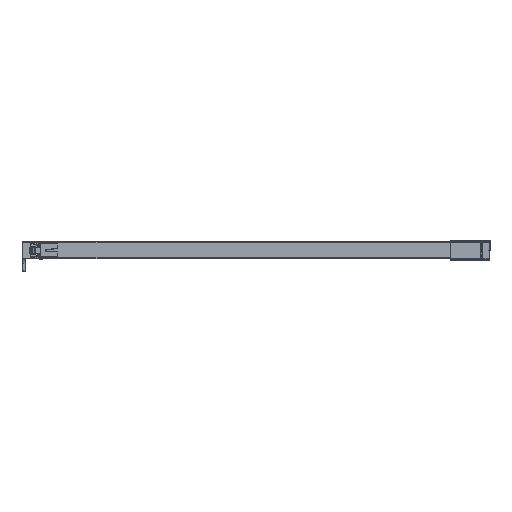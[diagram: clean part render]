
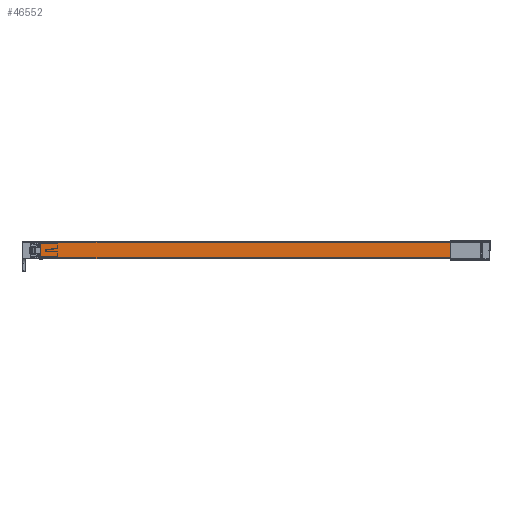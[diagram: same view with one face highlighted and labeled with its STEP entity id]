
A CAD part, front view. The second image highlights one B-rep face of the part: STEP entity #46552.
In plain terms, the highlighted planar face has unit normal (0, -1, 0).
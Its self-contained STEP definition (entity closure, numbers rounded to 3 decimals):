
#2811=FACE_OUTER_BOUND('',#5870,.T.);
#5870=EDGE_LOOP('',(#31190,#31191,#31192,#31193));
#12187=LINE('',#72356,#15869);
#12189=LINE('',#72365,#15871);
#12203=LINE('',#72410,#15885);
#12204=LINE('',#72411,#15886);
#15869=VECTOR('',#56154,1000.);
#15871=VECTOR('',#56164,1000.);
#15885=VECTOR('',#56204,1000.);
#15886=VECTOR('',#56205,1000.);
#19574=VERTEX_POINT('',#72353);
#19575=VERTEX_POINT('',#72355);
#19577=VERTEX_POINT('',#72362);
#19578=VERTEX_POINT('',#72364);
#23854=EDGE_CURVE('',#19574,#19575,#12187,.T.);
#23859=EDGE_CURVE('',#19578,#19577,#12189,.T.);
#23884=EDGE_CURVE('',#19577,#19575,#12203,.T.);
#23885=EDGE_CURVE('',#19574,#19578,#12204,.T.);
#31190=ORIENTED_EDGE('',*,*,#23859,.T.);
#31191=ORIENTED_EDGE('',*,*,#23884,.T.);
#31192=ORIENTED_EDGE('',*,*,#23854,.F.);
#31193=ORIENTED_EDGE('',*,*,#23885,.T.);
#45689=PLANE('',#49859);
#46552=ADVANCED_FACE('',(#2811),#45689,.F.);
#49859=AXIS2_PLACEMENT_3D('',#72409,#56202,#56203);
#56154=DIRECTION('',(0.,0.,-1.));
#56164=DIRECTION('',(0.,0.,-1.));
#56202=DIRECTION('center_axis',(0.,1.,0.));
#56203=DIRECTION('ref_axis',(0.,0.,1.));
#56204=DIRECTION('',(1.,0.,0.));
#56205=DIRECTION('',(-1.,0.,0.));
#72353=CARTESIAN_POINT('',(207.,-5.5,9.8));
#72355=CARTESIAN_POINT('',(207.,-5.5,-9.8));
#72356=CARTESIAN_POINT('',(207.,-5.5,10.));
#72362=CARTESIAN_POINT('',(-305.7,-5.5,-9.8));
#72364=CARTESIAN_POINT('',(-305.7,-5.5,9.8));
#72365=CARTESIAN_POINT('',(-305.7,-5.5,10.));
#72409=CARTESIAN_POINT('Origin',(207.,-5.5,10.));
#72410=CARTESIAN_POINT('',(207.,-5.5,-9.8));
#72411=CARTESIAN_POINT('',(207.,-5.5,9.8));
